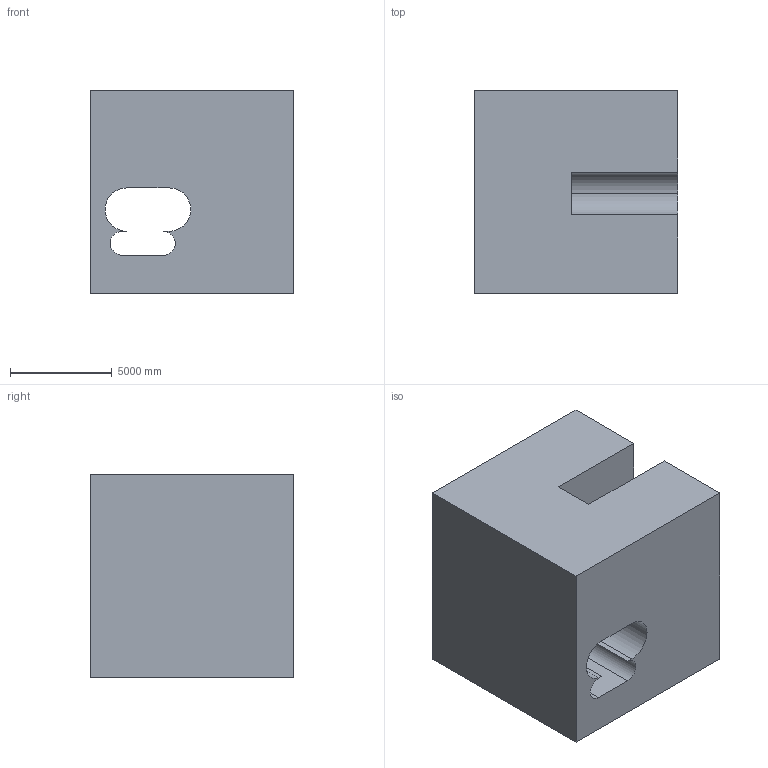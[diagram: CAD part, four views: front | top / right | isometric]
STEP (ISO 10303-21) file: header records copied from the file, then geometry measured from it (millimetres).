
FILE_DESCRIPTION (( 'STEP AP203' ), '1' );
FILE_NAME ('1433.STEP', '2022-08-18T14:26:45', ( 'user' ), ( '' ), 'SwSTEP 2.0', 'SolidWorks 2021', '' );
FILE_SCHEMA (( 'CONFIG_CONTROL_DESIGN' ));
Length unit declared in the file: centimetre
Products named in the file (1): 1433
Bounding box: 10000 x 10000 x 10000 mm (x, y, z)
Volume: 819282916230.9 mm3; surface area: 797423364.3 mm2
Topology: 1 solids, 1 shells, 26 faces, 72 edges, 48 vertices
Faces by surface type: plane 20, cylinder 6
Entity records: 909 total; most frequent: CARTESIAN_POINT 147, ORIENTED_EDGE 144, DIRECTION 138, EDGE_CURVE 72, LINE 60, VECTOR 60, VERTEX_POINT 48, AXIS2_PLACEMENT_3D 39
